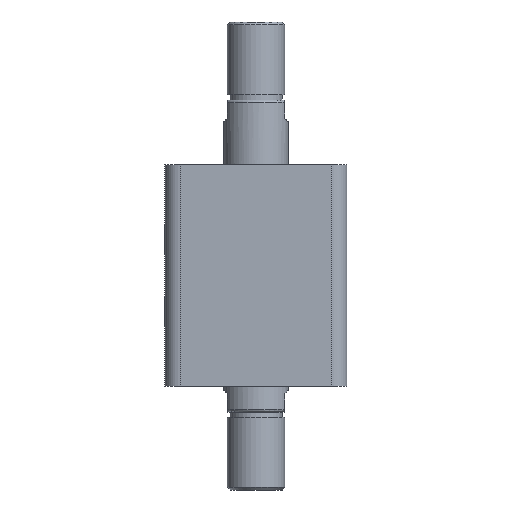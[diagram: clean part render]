
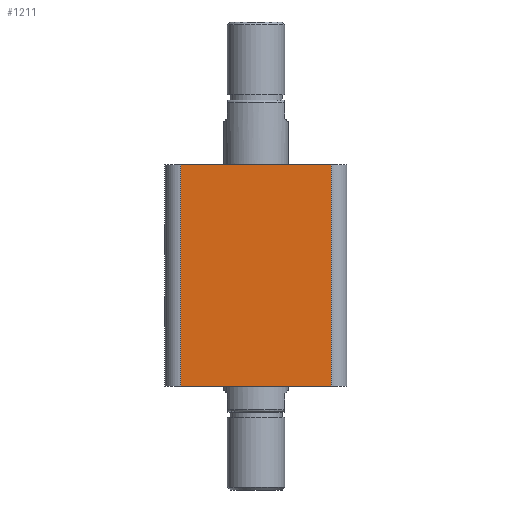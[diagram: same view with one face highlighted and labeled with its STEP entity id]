
A CAD part, front view. The second image highlights one B-rep face of the part: STEP entity #1211.
In plain terms, the highlighted planar face has unit normal (0, -1, 0).
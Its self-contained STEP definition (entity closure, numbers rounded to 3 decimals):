
#266 = CARTESIAN_POINT ( 'NONE',  ( 29., -35., 0. ) ) ;
#268 = CARTESIAN_POINT ( 'NONE',  ( 29., -35., 85. ) ) ;
#272 = CARTESIAN_POINT ( 'NONE',  ( -29., -35., 0. ) ) ;
#475 = AXIS2_PLACEMENT_3D ( 'NONE', #1323, #1331, #1330 ) ;
#936 = LINE ( 'NONE', #1036, #949 ) ;
#942 = LINE ( 'NONE', #1046, #945 ) ;
#944 = LINE ( 'NONE', #1048, #947 ) ;
#945 = VECTOR ( 'NONE', #1047, 1000. ) ;
#947 = VECTOR ( 'NONE', #1049, 1000. ) ;
#948 = LINE ( 'NONE', #1051, #951 ) ;
#949 = VECTOR ( 'NONE', #1050, 1000. ) ;
#951 = VECTOR ( 'NONE', #1052, 1000. ) ;
#1036 = CARTESIAN_POINT ( 'NONE',  ( -35., -35., 0. ) ) ;
#1046 = CARTESIAN_POINT ( 'NONE',  ( -35., -35., 85. ) ) ;
#1047 = DIRECTION ( 'NONE',  ( 1., 0., 0. ) ) ;
#1048 = CARTESIAN_POINT ( 'NONE',  ( -29., -35., 85. ) ) ;
#1049 = DIRECTION ( 'NONE',  ( 0., 0., -1. ) ) ;
#1050 = DIRECTION ( 'NONE',  ( 1., 0., 0. ) ) ;
#1051 = CARTESIAN_POINT ( 'NONE',  ( 29., -35., 85. ) ) ;
#1052 = DIRECTION ( 'NONE',  ( 0., 0., 1. ) ) ;
#1211 = ADVANCED_FACE ( 'NONE', ( #2059 ), #1334, .F. ) ;
#1323 = CARTESIAN_POINT ( 'NONE',  ( -35., -35., 85. ) ) ;
#1330 = DIRECTION ( 'NONE',  ( 0., 0., 1. ) ) ;
#1331 = DIRECTION ( 'NONE',  ( 0., 1., 0. ) ) ;
#1334 = PLANE ( 'NONE',  #475 ) ;
#1591 = CARTESIAN_POINT ( 'NONE',  ( -29., -35., 85. ) ) ;
#1807 = VERTEX_POINT ( 'NONE', #1591 ) ;
#1960 = EDGE_LOOP ( 'NONE', ( #2085, #2086, #2087, #2088 ) ) ;
#2059 = FACE_OUTER_BOUND ( 'NONE', #1960, .T. ) ;
#2085 = ORIENTED_EDGE ( 'NONE', *, *, #2987, .F. ) ;
#2086 = ORIENTED_EDGE ( 'NONE', *, *, #2988, .T. ) ;
#2087 = ORIENTED_EDGE ( 'NONE', *, *, #2989, .T. ) ;
#2088 = ORIENTED_EDGE ( 'NONE', *, *, #2990, .T. ) ;
#2582 = VERTEX_POINT ( 'NONE', #266 ) ;
#2585 = VERTEX_POINT ( 'NONE', #268 ) ;
#2589 = VERTEX_POINT ( 'NONE', #272 ) ;
#2987 = EDGE_CURVE ( 'NONE', #1807, #2585, #942, .T. ) ;
#2988 = EDGE_CURVE ( 'NONE', #1807, #2589, #944, .T. ) ;
#2989 = EDGE_CURVE ( 'NONE', #2589, #2582, #936, .T. ) ;
#2990 = EDGE_CURVE ( 'NONE', #2582, #2585, #948, .T. ) ;
